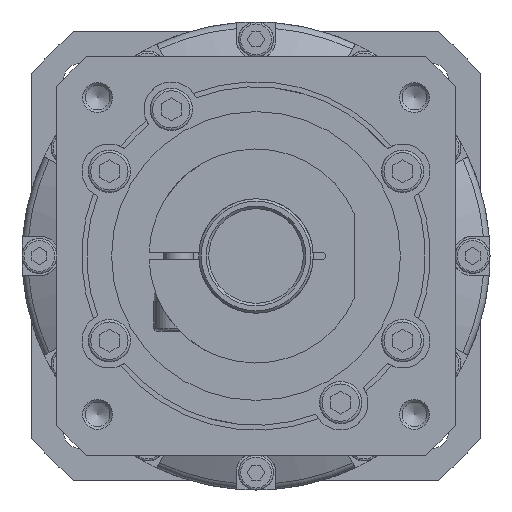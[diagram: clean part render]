
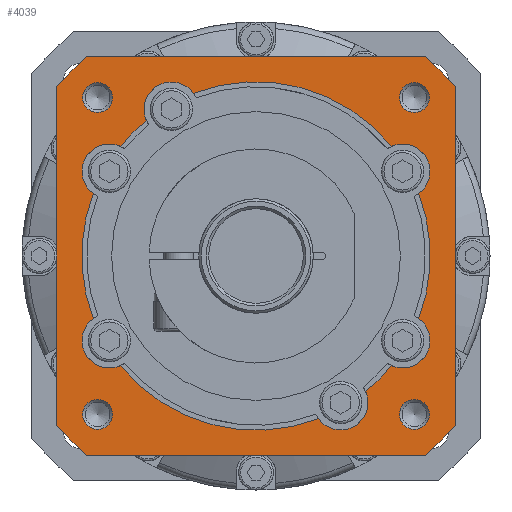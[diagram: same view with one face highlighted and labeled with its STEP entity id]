
A CAD part, left-side view. The second image highlights one B-rep face of the part: STEP entity #4039.
In plain terms, the highlighted planar face has unit normal (-1, 0, 0).
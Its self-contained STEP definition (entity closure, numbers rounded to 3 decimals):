
#2444=LINE('',#13167,#2954);
#2448=LINE('',#13179,#2958);
#2452=LINE('',#13193,#2962);
#2456=LINE('',#13205,#2966);
#2954=VECTOR('',#10641,1.);
#2958=VECTOR('',#10653,1.);
#2962=VECTOR('',#10667,1.);
#2966=VECTOR('',#10679,1.);
#3395=PLANE('',#9324);
#3635=FACE_BOUND('',#4785,.T.);
#3636=FACE_BOUND('',#4786,.T.);
#3637=FACE_BOUND('',#4787,.T.);
#3638=FACE_BOUND('',#4788,.T.);
#3639=FACE_BOUND('',#4789,.T.);
#3640=FACE_BOUND('',#4790,.T.);
#4039=ADVANCED_FACE('',(#3635,#3636,#3637,#3638,#3639,#3640),#3395,.T.);
#4785=EDGE_LOOP('',(#6359,#6360,#6361,#6362,#6363,#6364,#6365,#6366,#6367,
#6368,#6369,#6370));
#4786=EDGE_LOOP('',(#6371));
#4787=EDGE_LOOP('',(#6372));
#4788=EDGE_LOOP('',(#6373));
#4789=EDGE_LOOP('',(#6374));
#4790=EDGE_LOOP('',(#6375,#6376,#6377,#6378,#6379,#6380,#6381,#6382));
#5169=CIRCLE('',#9260,35.);
#5171=CIRCLE('',#9263,35.);
#5173=CIRCLE('',#9266,35.);
#5175=CIRCLE('',#9269,35.);
#5176=CIRCLE('',#9271,35.);
#5191=CIRCLE('',#9293,52.5);
#5194=CIRCLE('',#9298,52.5);
#5196=CIRCLE('',#9302,52.5);
#5199=CIRCLE('',#9307,52.5);
#5202=CIRCLE('',#9313,5.5);
#5203=CIRCLE('',#9314,35.);
#5204=CIRCLE('',#9315,5.5);
#5205=CIRCLE('',#9316,5.5);
#5206=CIRCLE('',#9317,5.5);
#5207=CIRCLE('',#9318,5.5);
#5208=CIRCLE('',#9319,5.5);
#5209=CIRCLE('',#9320,3.);
#5210=CIRCLE('',#9321,3.);
#5211=CIRCLE('',#9322,3.);
#5212=CIRCLE('',#9323,3.);
#6359=ORIENTED_EDGE('',*,*,#8191,.F.);
#6360=ORIENTED_EDGE('',*,*,#8192,.T.);
#6361=ORIENTED_EDGE('',*,*,#8193,.F.);
#6362=ORIENTED_EDGE('',*,*,#8132,.T.);
#6363=ORIENTED_EDGE('',*,*,#8194,.F.);
#6364=ORIENTED_EDGE('',*,*,#8136,.T.);
#6365=ORIENTED_EDGE('',*,*,#8195,.F.);
#6366=ORIENTED_EDGE('',*,*,#8140,.T.);
#6367=ORIENTED_EDGE('',*,*,#8196,.F.);
#6368=ORIENTED_EDGE('',*,*,#8144,.T.);
#6369=ORIENTED_EDGE('',*,*,#8197,.F.);
#6370=ORIENTED_EDGE('',*,*,#8146,.T.);
#6371=ORIENTED_EDGE('',*,*,#8198,.T.);
#6372=ORIENTED_EDGE('',*,*,#8199,.T.);
#6373=ORIENTED_EDGE('',*,*,#8200,.T.);
#6374=ORIENTED_EDGE('',*,*,#8201,.T.);
#6375=ORIENTED_EDGE('',*,*,#8164,.T.);
#6376=ORIENTED_EDGE('',*,*,#8169,.T.);
#6377=ORIENTED_EDGE('',*,*,#8172,.T.);
#6378=ORIENTED_EDGE('',*,*,#8175,.T.);
#6379=ORIENTED_EDGE('',*,*,#8178,.T.);
#6380=ORIENTED_EDGE('',*,*,#8182,.T.);
#6381=ORIENTED_EDGE('',*,*,#8185,.T.);
#6382=ORIENTED_EDGE('',*,*,#8188,.T.);
#7374=VERTEX_POINT('',#13086);
#7376=VERTEX_POINT('',#13090);
#7378=VERTEX_POINT('',#13095);
#7380=VERTEX_POINT('',#13099);
#7382=VERTEX_POINT('',#13104);
#7384=VERTEX_POINT('',#13108);
#7386=VERTEX_POINT('',#13113);
#7388=VERTEX_POINT('',#13117);
#7389=VERTEX_POINT('',#13121);
#7391=VERTEX_POINT('',#13124);
#7399=VERTEX_POINT('',#13157);
#7400=VERTEX_POINT('',#13158);
#7404=VERTEX_POINT('',#13168);
#7406=VERTEX_POINT('',#13174);
#7408=VERTEX_POINT('',#13180);
#7410=VERTEX_POINT('',#13186);
#7413=VERTEX_POINT('',#13194);
#7415=VERTEX_POINT('',#13200);
#7418=VERTEX_POINT('',#13212);
#7419=VERTEX_POINT('',#13214);
#7420=VERTEX_POINT('',#13221);
#7421=VERTEX_POINT('',#13223);
#7422=VERTEX_POINT('',#13225);
#7423=VERTEX_POINT('',#13227);
#8132=EDGE_CURVE('',#7374,#7376,#5169,.T.);
#8136=EDGE_CURVE('',#7378,#7380,#5171,.T.);
#8140=EDGE_CURVE('',#7382,#7384,#5173,.T.);
#8144=EDGE_CURVE('',#7386,#7388,#5175,.T.);
#8146=EDGE_CURVE('',#7391,#7389,#5176,.T.);
#8164=EDGE_CURVE('',#7399,#7400,#5191,.T.);
#8169=EDGE_CURVE('',#7400,#7404,#2444,.T.);
#8172=EDGE_CURVE('',#7404,#7406,#5194,.T.);
#8175=EDGE_CURVE('',#7406,#7408,#2448,.T.);
#8178=EDGE_CURVE('',#7408,#7410,#5196,.T.);
#8182=EDGE_CURVE('',#7410,#7413,#2452,.T.);
#8185=EDGE_CURVE('',#7413,#7415,#5199,.T.);
#8188=EDGE_CURVE('',#7415,#7399,#2456,.T.);
#8191=EDGE_CURVE('',#7418,#7389,#5202,.T.);
#8192=EDGE_CURVE('',#7418,#7419,#5203,.T.);
#8193=EDGE_CURVE('',#7374,#7419,#5204,.T.);
#8194=EDGE_CURVE('',#7378,#7376,#5205,.T.);
#8195=EDGE_CURVE('',#7382,#7380,#5206,.T.);
#8196=EDGE_CURVE('',#7386,#7384,#5207,.T.);
#8197=EDGE_CURVE('',#7391,#7388,#5208,.T.);
#8198=EDGE_CURVE('',#7420,#7420,#5209,.T.);
#8199=EDGE_CURVE('',#7421,#7421,#5210,.T.);
#8200=EDGE_CURVE('',#7422,#7422,#5211,.T.);
#8201=EDGE_CURVE('',#7423,#7423,#5212,.T.);
#9260=AXIS2_PLACEMENT_3D('',#13091,#10555,#10556);
#9263=AXIS2_PLACEMENT_3D('',#13100,#10563,#10564);
#9266=AXIS2_PLACEMENT_3D('',#13109,#10571,#10572);
#9269=AXIS2_PLACEMENT_3D('',#13118,#10579,#10580);
#9271=AXIS2_PLACEMENT_3D('',#13123,#10584,#10585);
#9293=AXIS2_PLACEMENT_3D('',#13156,#10631,#10632);
#9298=AXIS2_PLACEMENT_3D('',#13173,#10646,#10647);
#9302=AXIS2_PLACEMENT_3D('',#13185,#10658,#10659);
#9307=AXIS2_PLACEMENT_3D('',#13199,#10672,#10673);
#9313=AXIS2_PLACEMENT_3D('',#13211,#10687,#10688);
#9314=AXIS2_PLACEMENT_3D('',#13213,#10689,#10690);
#9315=AXIS2_PLACEMENT_3D('',#13215,#10691,#10692);
#9316=AXIS2_PLACEMENT_3D('',#13216,#10693,#10694);
#9317=AXIS2_PLACEMENT_3D('',#13217,#10695,#10696);
#9318=AXIS2_PLACEMENT_3D('',#13218,#10697,#10698);
#9319=AXIS2_PLACEMENT_3D('',#13219,#10699,#10700);
#9320=AXIS2_PLACEMENT_3D('',#13220,#10701,#10702);
#9321=AXIS2_PLACEMENT_3D('',#13222,#10703,#10704);
#9322=AXIS2_PLACEMENT_3D('',#13224,#10705,#10706);
#9323=AXIS2_PLACEMENT_3D('',#13226,#10707,#10708);
#9324=AXIS2_PLACEMENT_3D('',#13228,#10709,#10710);
#10555=DIRECTION('',(1.,0.,0.));
#10556=DIRECTION('',(0.,0.,1.));
#10563=DIRECTION('',(1.,0.,0.));
#10564=DIRECTION('',(0.,0.,1.));
#10571=DIRECTION('',(1.,0.,0.));
#10572=DIRECTION('',(0.,0.,1.));
#10579=DIRECTION('',(1.,0.,0.));
#10580=DIRECTION('',(0.,0.,1.));
#10584=DIRECTION('',(1.,0.,0.));
#10585=DIRECTION('',(0.,0.,1.));
#10631=DIRECTION('',(-1.,0.,0.));
#10632=DIRECTION('',(0.,0.,-1.));
#10641=DIRECTION('',(0.,1.,0.));
#10646=DIRECTION('',(-1.,0.,0.));
#10647=DIRECTION('',(0.,0.,-1.));
#10653=DIRECTION('',(0.,0.,-1.));
#10658=DIRECTION('',(-1.,0.,0.));
#10659=DIRECTION('',(0.,0.,-1.));
#10667=DIRECTION('',(0.,-1.,0.));
#10672=DIRECTION('',(-1.,0.,0.));
#10673=DIRECTION('',(0.,0.,-1.));
#10679=DIRECTION('',(0.,0.,1.));
#10687=DIRECTION('',(-1.,0.,0.));
#10688=DIRECTION('',(0.,0.,-1.));
#10689=DIRECTION('',(1.,0.,0.));
#10690=DIRECTION('',(0.,0.,1.));
#10691=DIRECTION('',(-1.,0.,0.));
#10692=DIRECTION('',(0.,0.,-1.));
#10693=DIRECTION('',(-1.,0.,0.));
#10694=DIRECTION('',(0.,0.,-1.));
#10695=DIRECTION('',(-1.,0.,0.));
#10696=DIRECTION('',(0.,0.,-1.));
#10697=DIRECTION('',(-1.,0.,0.));
#10698=DIRECTION('',(0.,0.,-1.));
#10699=DIRECTION('',(-1.,0.,0.));
#10700=DIRECTION('',(0.,0.,-1.));
#10701=DIRECTION('',(1.,0.,0.));
#10702=DIRECTION('',(0.,0.,1.));
#10703=DIRECTION('',(1.,0.,0.));
#10704=DIRECTION('',(0.,0.,1.));
#10705=DIRECTION('',(1.,0.,0.));
#10706=DIRECTION('',(0.,0.,1.));
#10707=DIRECTION('',(1.,0.,0.));
#10708=DIRECTION('',(0.,0.,1.));
#10709=DIRECTION('',(-1.,0.,0.));
#10710=DIRECTION('',(0.,0.,1.));
#13086=CARTESIAN_POINT('',(-147.,-27.203,-22.022));
#13090=CARTESIAN_POINT('',(-147.,-22.022,-27.203));
#13091=CARTESIAN_POINT('',(-147.,0.,0.));
#13095=CARTESIAN_POINT('',(-147.,-12.547,-32.674));
#13099=CARTESIAN_POINT('',(-147.,27.203,-22.022));
#13100=CARTESIAN_POINT('',(-147.,0.,0.));
#13104=CARTESIAN_POINT('',(-147.,32.674,-12.547));
#13108=CARTESIAN_POINT('',(-147.,32.674,12.547));
#13109=CARTESIAN_POINT('',(-147.,0.,0.));
#13113=CARTESIAN_POINT('',(-147.,27.203,22.022));
#13117=CARTESIAN_POINT('',(-147.,22.022,27.203));
#13118=CARTESIAN_POINT('',(-147.,0.,0.));
#13121=CARTESIAN_POINT('',(-147.,-27.203,22.022));
#13123=CARTESIAN_POINT('',(-147.,0.,0.));
#13124=CARTESIAN_POINT('',(-147.,12.547,32.674));
#13156=CARTESIAN_POINT('',(-147.,0.,0.));
#13157=CARTESIAN_POINT('',(-147.,-40.,34.004));
#13158=CARTESIAN_POINT('',(-147.,-34.004,40.));
#13167=CARTESIAN_POINT('',(-147.,-34.004,40.));
#13168=CARTESIAN_POINT('',(-147.,34.004,40.));
#13173=CARTESIAN_POINT('',(-147.,0.,0.));
#13174=CARTESIAN_POINT('',(-147.,40.,34.004));
#13179=CARTESIAN_POINT('',(-147.,40.,34.004));
#13180=CARTESIAN_POINT('',(-147.,40.,-34.004));
#13185=CARTESIAN_POINT('',(-147.,0.,0.));
#13186=CARTESIAN_POINT('',(-147.,34.004,-40.));
#13193=CARTESIAN_POINT('',(-147.,34.004,-40.));
#13194=CARTESIAN_POINT('',(-147.,-34.004,-40.));
#13199=CARTESIAN_POINT('',(-147.,0.,0.));
#13200=CARTESIAN_POINT('',(-147.,-40.,-34.004));
#13205=CARTESIAN_POINT('',(-147.,-40.,-34.004));
#13211=CARTESIAN_POINT('',(-147.,-29.445,17.));
#13212=CARTESIAN_POINT('',(-147.,-32.674,12.547));
#13213=CARTESIAN_POINT('',(-147.,0.,0.));
#13214=CARTESIAN_POINT('',(-147.,-32.674,-12.547));
#13215=CARTESIAN_POINT('',(-147.,-29.445,-17.));
#13216=CARTESIAN_POINT('',(-147.,-17.,-29.445));
#13217=CARTESIAN_POINT('',(-147.,29.445,-17.));
#13218=CARTESIAN_POINT('',(-147.,29.445,17.));
#13219=CARTESIAN_POINT('',(-147.,17.,29.445));
#13220=CARTESIAN_POINT('',(-147.,-31.82,31.82));
#13221=CARTESIAN_POINT('',(-147.,-31.82,34.82));
#13222=CARTESIAN_POINT('',(-147.,31.82,31.82));
#13223=CARTESIAN_POINT('',(-147.,31.82,34.82));
#13224=CARTESIAN_POINT('',(-147.,31.82,-31.82));
#13225=CARTESIAN_POINT('',(-147.,31.82,-28.82));
#13226=CARTESIAN_POINT('',(-147.,-31.82,-31.82));
#13227=CARTESIAN_POINT('',(-147.,-31.82,-28.82));
#13228=CARTESIAN_POINT('',(-147.,0.,0.));
